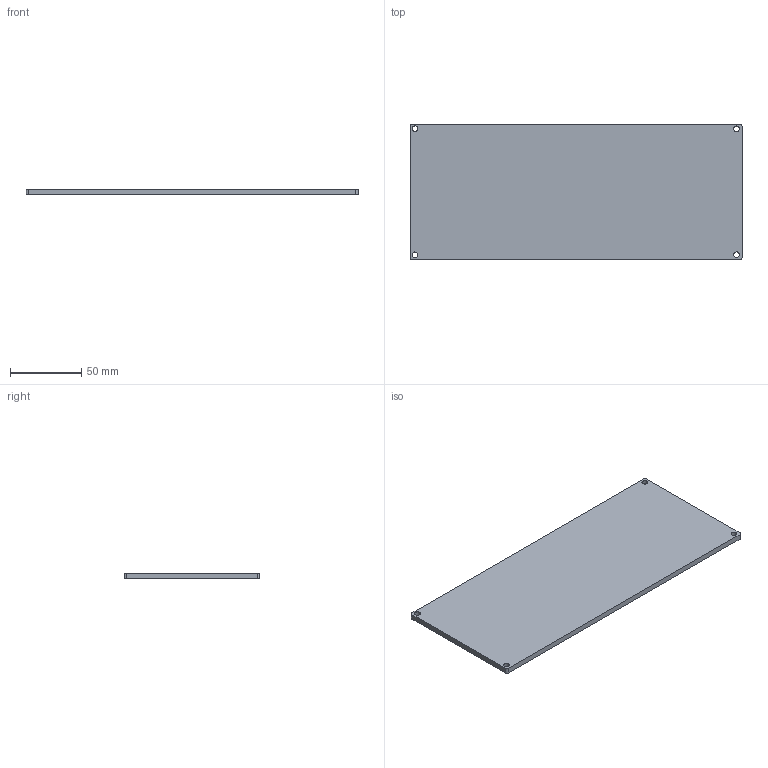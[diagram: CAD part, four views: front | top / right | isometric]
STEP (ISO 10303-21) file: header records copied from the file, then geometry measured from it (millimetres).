
FILE_DESCRIPTION(/* description */ (''),/* implementation_level */ '2;1');
FILE_NAME(/* name */ 'amzn-blue-4chan-blankplate.step',/* time_stamp */ '2025-11-25T13:21:32-05:00',/* author */ (''),/* organization */ (''),/* preprocessor_version */ 'ST-DEVELOPER v20.1',/* originating_system */ 'Autodesk Translation Framework v14.17.0.0',/* authorisation */ '');
FILE_SCHEMA (('AUTOMOTIVE_DESIGN { 1 0 10303 214 3 1 1 }'));
Length unit declared in the file: millimetre
Products named in the file (1): (Unsaved)
Bounding box: 233.28 x 95.5 x 4 mm (x, y, z)
Volume: 88903.5 mm3; surface area: 47273.4 mm2
Topology: 1 solids, 1 shells, 14 faces, 36 edges, 24 vertices
Faces by surface type: plane 6, bspline 4, cylinder 4
Full cylindrical faces by diameter (mm): 4 x4
Entity records: 621 total; most frequent: CARTESIAN_POINT 263, ORIENTED_EDGE 72, DIRECTION 50, EDGE_CURVE 36, VERTEX_POINT 24, EDGE_LOOP 22, AXIS2_PLACEMENT_3D 19, B_SPLINE_CURVE_WITH_KNOTS 16
